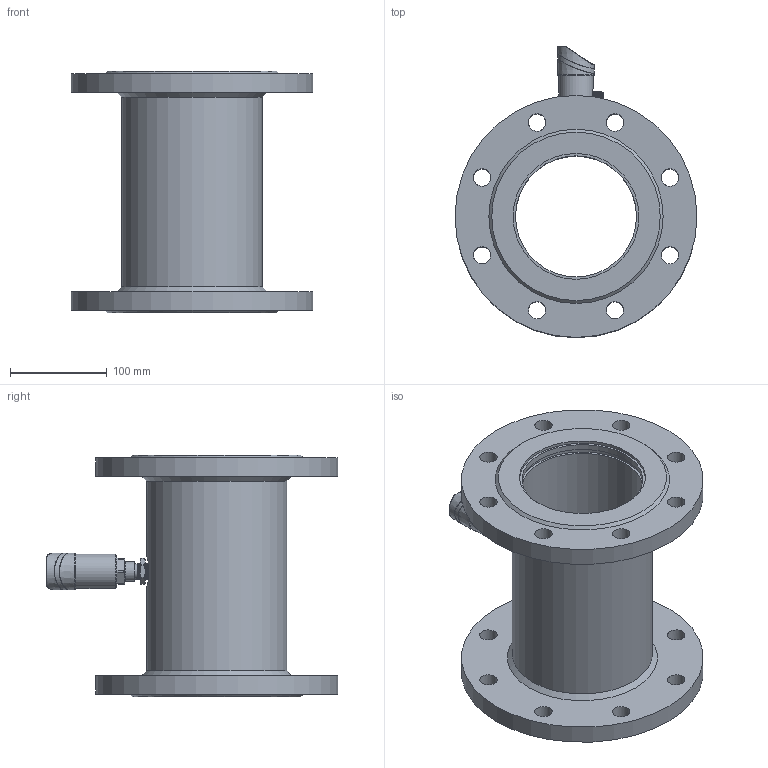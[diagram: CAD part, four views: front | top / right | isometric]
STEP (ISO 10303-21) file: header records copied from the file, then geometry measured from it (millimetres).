
FILE_DESCRIPTION( (''), '2;1');
FILE_NAME( 'QTKE_DN125_flange.step', '2024-10-14T15:10:43+08:00', (''), (''), '', '', '');
FILE_SCHEMA (('AUTOMOTIVE_DESIGN { 1 0 10303 214 3 1 1 1 }'));
Length unit declared in the file: millimetre
Products named in the file (1): QTKE DN125_flange
Bounding box: 250 x 301 x 250 mm (x, y, z)
Volume: 2327752.7 mm3; surface area: 399609.1 mm2
Topology: 5 solids, 6 shells, 734 faces, 1916 edges, 1260 vertices
Faces by surface type: plane 271, cylinder 149, extrusion 141, cone 72, bspline 58, torus 32, sphere 11
Full cylindrical faces by diameter (mm): 1.689 x1, 2.7 x3, 12 x1, 15.9 x1, 16.5 x2, 18 x16, 20 x1, 23 x3, 26 x5, 35.5 x1, 37.001 x1, 125 x3, 130 x4, 145 x1, 250 x2
Entity records: 32022 total; most frequent: CARTESIAN_POINT 13788, ORIENTED_EDGE 3564, DIRECTION 2893, EDGE_CURVE 1782, VERTEX_POINT 1206, AXIS2_PLACEMENT_3D 972, VECTOR 949, EDGE_LOOP 918
